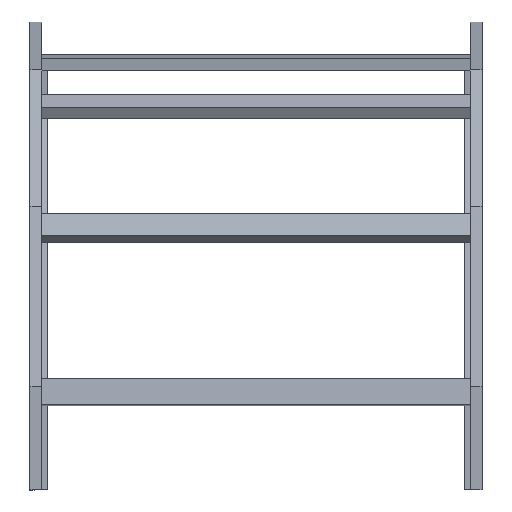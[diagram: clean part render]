
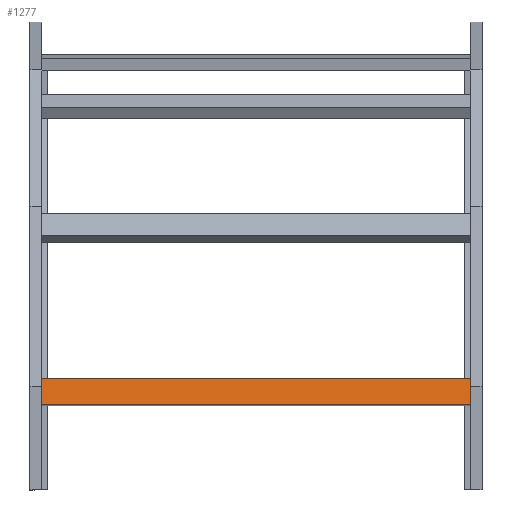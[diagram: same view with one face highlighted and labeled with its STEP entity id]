
A CAD part, top view. The second image highlights one B-rep face of the part: STEP entity #1277.
In plain terms, the highlighted planar face has unit normal (0, 0.131, 0.991) as drawn and (0, 1, 0) by its records, which use the part's own axes.
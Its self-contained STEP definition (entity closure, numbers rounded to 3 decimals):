
#55 = AXIS2_PLACEMENT_3D ( 'NONE', #1859, #265, #1868 ) ;
#74 = CARTESIAN_POINT ( 'NONE',  ( 348., 20., -20.25 ) ) ;
#77 = LINE ( 'NONE', #203, #435 ) ;
#93 = DIRECTION ( 'NONE',  ( -1., 0., 0. ) ) ;
#114 = VECTOR ( 'NONE', #93, 1000. ) ;
#185 = VERTEX_POINT ( 'NONE', #475 ) ;
#203 = CARTESIAN_POINT ( 'NONE',  ( -348., 20., 20.25 ) ) ;
#263 = EDGE_CURVE ( 'NONE', #185, #757, #1238, .T. ) ;
#265 = DIRECTION ( 'NONE',  ( 0., -1., 0. ) ) ;
#398 = VERTEX_POINT ( 'NONE', #401 ) ;
#401 = CARTESIAN_POINT ( 'NONE',  ( -348., 20., -20.25 ) ) ;
#428 = CARTESIAN_POINT ( 'NONE',  ( 348., 20., -20.25 ) ) ;
#435 = VECTOR ( 'NONE', #931, 1000. ) ;
#474 = CARTESIAN_POINT ( 'NONE',  ( -348., 20., 20.25 ) ) ;
#475 = CARTESIAN_POINT ( 'NONE',  ( 348., 20., 20.25 ) ) ;
#635 = EDGE_LOOP ( 'NONE', ( #878, #896, #1883, #1861 ) ) ;
#754 = DIRECTION ( 'NONE',  ( 0., 0., 1. ) ) ;
#757 = VERTEX_POINT ( 'NONE', #474 ) ;
#801 = EDGE_CURVE ( 'NONE', #809, #398, #955, .T. ) ;
#809 = VERTEX_POINT ( 'NONE', #428 ) ;
#878 = ORIENTED_EDGE ( 'NONE', *, *, #1443, .T. ) ;
#896 = ORIENTED_EDGE ( 'NONE', *, *, #263, .F. ) ;
#930 = DIRECTION ( 'NONE',  ( -1., 0., 0. ) ) ;
#931 = DIRECTION ( 'NONE',  ( 0., 0., 1. ) ) ;
#955 = LINE ( 'NONE', #74, #114 ) ;
#1051 = CARTESIAN_POINT ( 'NONE',  ( 348., 20., 20.25 ) ) ;
#1119 = VECTOR ( 'NONE', #754, 1000. ) ;
#1193 = CARTESIAN_POINT ( 'NONE',  ( 348., 20., 20.25 ) ) ;
#1238 = LINE ( 'NONE', #1051, #1731 ) ;
#1266 = FACE_OUTER_BOUND ( 'NONE', #635, .T. ) ;
#1277 = ADVANCED_FACE ( 'NONE', ( #1266 ), #1285, .F. ) ;
#1285 = PLANE ( 'NONE',  #55 ) ;
#1324 = EDGE_CURVE ( 'NONE', #809, #185, #1484, .T. ) ;
#1443 = EDGE_CURVE ( 'NONE', #398, #757, #77, .T. ) ;
#1484 = LINE ( 'NONE', #1193, #1119 ) ;
#1731 = VECTOR ( 'NONE', #930, 1000. ) ;
#1859 = CARTESIAN_POINT ( 'NONE',  ( 348., 20., 20.25 ) ) ;
#1861 = ORIENTED_EDGE ( 'NONE', *, *, #801, .T. ) ;
#1868 = DIRECTION ( 'NONE',  ( 0., 0., -1. ) ) ;
#1883 = ORIENTED_EDGE ( 'NONE', *, *, #1324, .F. ) ;
